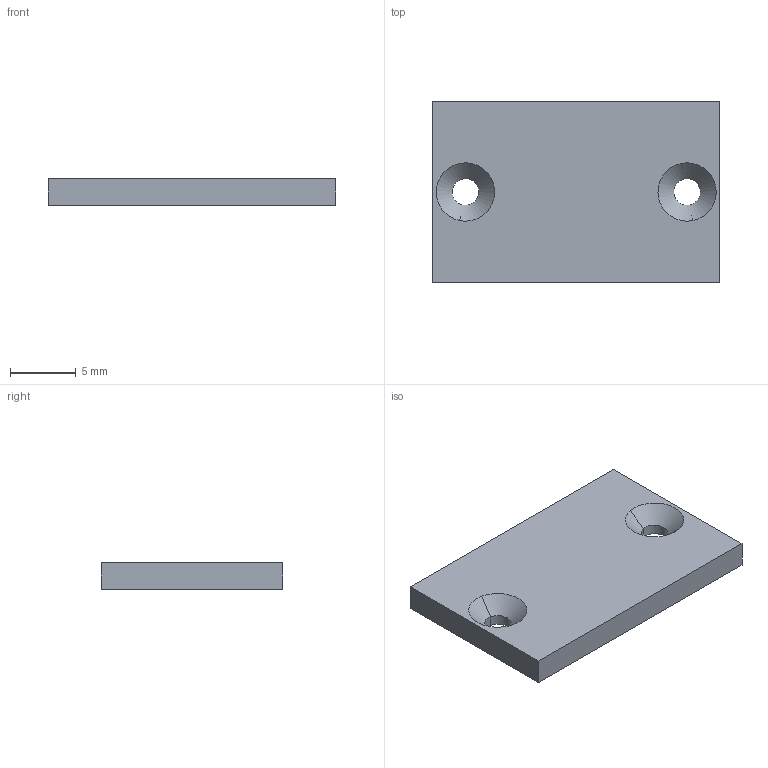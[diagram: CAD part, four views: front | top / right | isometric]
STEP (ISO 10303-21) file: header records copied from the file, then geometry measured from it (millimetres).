
FILE_DESCRIPTION(/* description */ (''),/* implementation_level */ '2;1');
FILE_NAME(/* name */ 'CAP',/* time_stamp */ '2026-08-18T16:10:59+02:00',/* author */ (''),/* organization */ (''),/* preprocessor_version */ 'ST-DEVELOPER v19.2',/* originating_system */ 'Rhino 8.34',/* authorisation */ '');
FILE_SCHEMA (('CONFIG_CONTROL_DESIGN'));
Length unit declared in the file: millimetre
Products named in the file (1): Document
Bounding box: 21.83 x 13.8 x 2 mm (x, y, z)
Volume: 576.8 mm3; surface area: 752.4 mm2
Topology: 1 solids, 1 shells, 14 faces, 32 edges, 20 vertices
Faces by surface type: plane 6, cylinder 4, bspline 4
Entity records: 512 total; most frequent: CARTESIAN_POINT 148, ORIENTED_EDGE 64, DIRECTION 38, EDGE_CURVE 32, AXIS2_PLACEMENT_3D 24, VERTEX_POINT 20, EDGE_LOOP 18, B_SPLINE_CURVE_WITH_KNOTS 16
